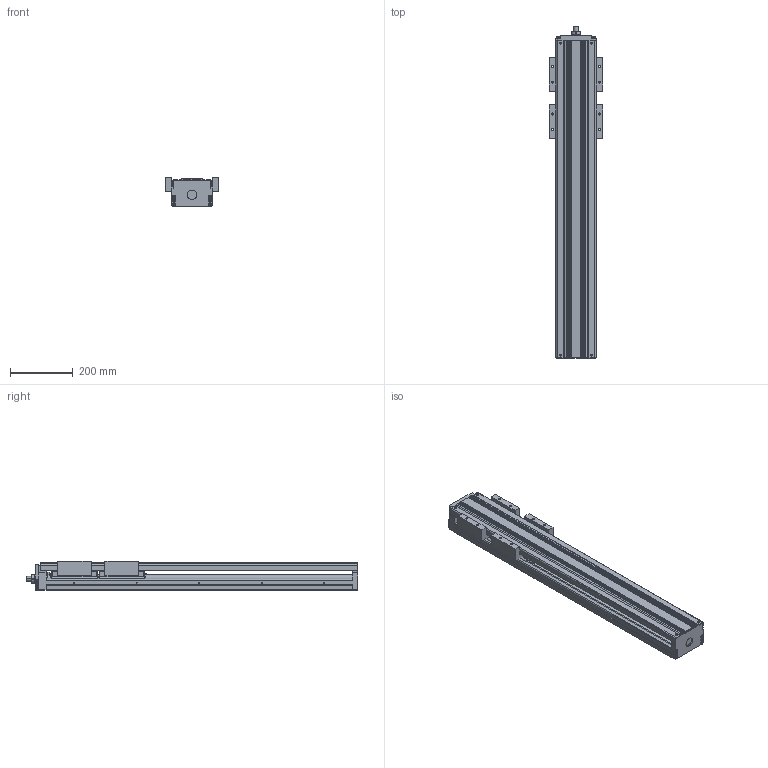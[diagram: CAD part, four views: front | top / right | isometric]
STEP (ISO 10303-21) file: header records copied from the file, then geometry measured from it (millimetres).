
FILE_DESCRIPTION(('no description'),'unknown implementation level');
FILE_NAME('KK13025P980A2H0C00_FILE_63.stp',' ',('HIWIN GmbH'),('CADClick - KiM GmbH - www.kimweb.de'),'unknown preprocess','ACIS','unknown authorization');
FILE_SCHEMA(('automotive_design'));
Length unit declared in the file: millimetre
Products named in the file (3): KK13025P980A2H0C00_FILE_1; KK130_FILE; KK13025P980A2H0C00_FILE
Bounding box: 170 x 1062 x 94 mm (x, y, z)
Volume: 6069614.3 mm3; surface area: 1129159.2 mm2
Topology: 3 solids, 23 shells, 1227 faces, 3074 edges, 1982 vertices
Faces by surface type: plane 785, cylinder 382, torus 52, sphere 4, cone 4
Entity records: 71990 total; most frequent: CARTESIAN_POINT 6498, DIRECTION 6490, STYLED_ITEM 6282, PRESENTATION_STYLE_ASSIGNMENT 6282, COLOUR_RGB 6282, ORIENTED_EDGE 6140, EDGE_CURVE 3070, CURVE_STYLE 3070
